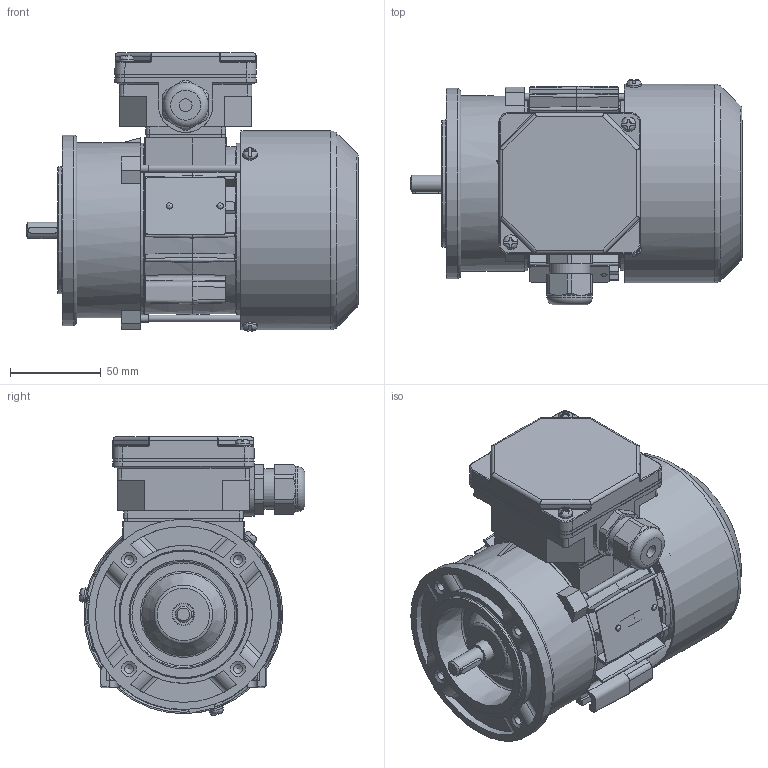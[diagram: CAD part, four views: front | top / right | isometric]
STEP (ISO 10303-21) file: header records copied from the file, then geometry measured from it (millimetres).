
FILE_DESCRIPTION( ( 'Unknown' ), '1' );
FILE_NAME( 'G:/Poczta Tk-1/STP/w.m.56/Sh56/SKh56-A1.stp', 'Unknown', ( 'K. Szlosek' ), ( 'BESEL S.A.' ), 'PSStep 17.0.49', 'Unknown', ' ' );
FILE_SCHEMA( ( 'AUTOMOTIVE_DESIGN { 1 0 10303 214 1 1 1 1 }' ) );
Length unit declared in the file: millimetre
Products named in the file (28): Assem1; K4-2320 Uszczelka nr 1 Sh71,80; K3-9987 kadłub ze stojanem Sh56-B; K3-2193 Tarcza łożyskowa P Sg56-2..; K3-9990 wał Sh56-B; K2-0860 Pokrywka skrzynki zaciskowej; Wpust A3x3x16; K4-2820 Uszczelka nr 2 Sh71,80; Wkręt samogwintujący M4x8; Wkręt samogwintujący M4x16; K2-0879 Przewietrznik Sg56; Nitokołek A 2x6; K1-0529 Tarcza kołnierzowa B14_1 SKg56-..1; K3-11363 Osłona przewietrznika Sh 56_A; K2-0859 Podstawa skrzynki 6-cio zaciskowej; Śruba ściągająca E_M4x75; Łożysko 6201; Dławnica M20x1,5; Tabliczka znamionowa 32x44
Assembly tree (43 placements, depth 2):
  Assem1
    K4-2320 Uszczelka nr 1 Sh71,80
    K3-9987 kadłub ze stojanem Sh56-B
    K3-2193 Tarcza łożyskowa P Sg56-2..
    K3-9990 wał Sh56-B
    K2-0860 Pokrywka skrzynki zaciskowej
    Wpust A3x3x16
    K4-2820 Uszczelka nr 2 Sh71,80
    Wkręt samogwintujący M4x8  x3
    Wkręt samogwintujący M4x16  x2
    K2-0879 Przewietrznik Sg56
    Nitokołek A 2x6  x2
    K1-0529 Tarcza kołnierzowa B14_1 SKg56-..1
    K3-11363 Osłona przewietrznika Sh 56_A
    K2-0859 Podstawa skrzynki 6-cio zaciskowej
    Śruba ściągająca E_M4x75  x3
    Łożysko 6201  x2
    Łożysko 6201  x2
    Łożysko 6201  x2
    Łożysko 6201  x2
    Łożysko 6201  x2
    Łożysko 6201  x2
    Łożysko 6201  x2
    Łożysko 6201  x2
    Łożysko 6201  x2
    Łożysko 6201  x2
    Dławnica M20x1,5
    Tabliczka znamionowa 32x44
Bounding box: 183 x 124.54 x 153.72 mm (x, y, z)
Volume: 430939.2 mm3; surface area: 295338 mm2
Topology: 43 solids, 59 shells, 1730 faces, 4647 edges, 2988 vertices
Faces by surface type: plane 882, cylinder 506, torus 124, cone 108, bspline 76, sphere 34
Full cylindrical faces by diameter (mm): 2 x2, 2.4 x2, 3.242 x3, 3.7 x10, 4 x8, 4.5 x4, 4.6 x1, 4.8 x4, 4.917 x4, 5 x4, 7 x4, 8 x6, 9 x1, 10.9 x1, 11 x1, 11.5 x1, 11.8 x2, 12 x4, 12.4 x2, 15.5 x1, 16 x1, 16.1 x1, 17 x2, 18.376 x1, 18.38 x1, 18.52 x4, 20 x1, 22.3 x1, 24 x2, 25 x1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
Entity records: 72842 total; most frequent: CARTESIAN_POINT 21337, DIRECTION 7985, ORIENTED_EDGE 7892, EDGE_CURVE 3946, AXIS2_PLACEMENT_3D 2976, VERTEX_POINT 2674, LINE 2033, VECTOR 2033
